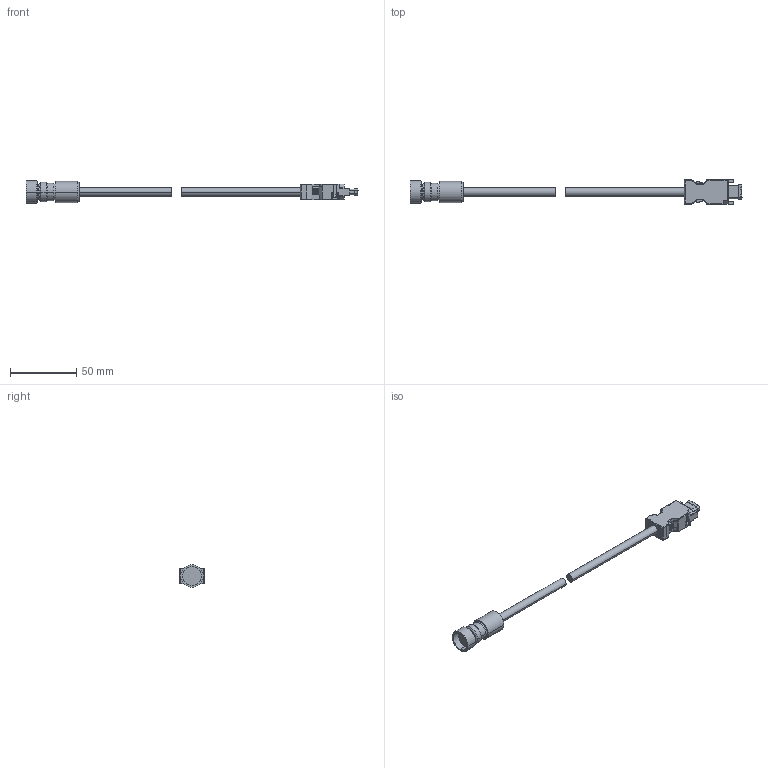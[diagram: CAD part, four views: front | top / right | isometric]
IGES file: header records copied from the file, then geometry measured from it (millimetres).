
Start section: Elysium IGES Interface
Global section: file name: 74HC:\Users\u160620\Desktop\技術提供20252609\06AHP057_SIGNALCABLE_Yaskawa.igs; native system: Creo Elements/Direct Modeling 18.1I  13-Aug-2016; preprocessor: Creo Element/Direct IGES_3D V2.2; author: Unknown; organization: Unknown; date: 20251216.120239; units: millimetre
Bounding box: 250.5 x 18.8 x 17 mm (x, y, z)
Volume: 18988.3 mm3; surface area: 9655.9 mm2
Topology: 2 solids, 2 shells, 376 faces, 942 edges, 586 vertices
Faces by surface type: bspline 376
